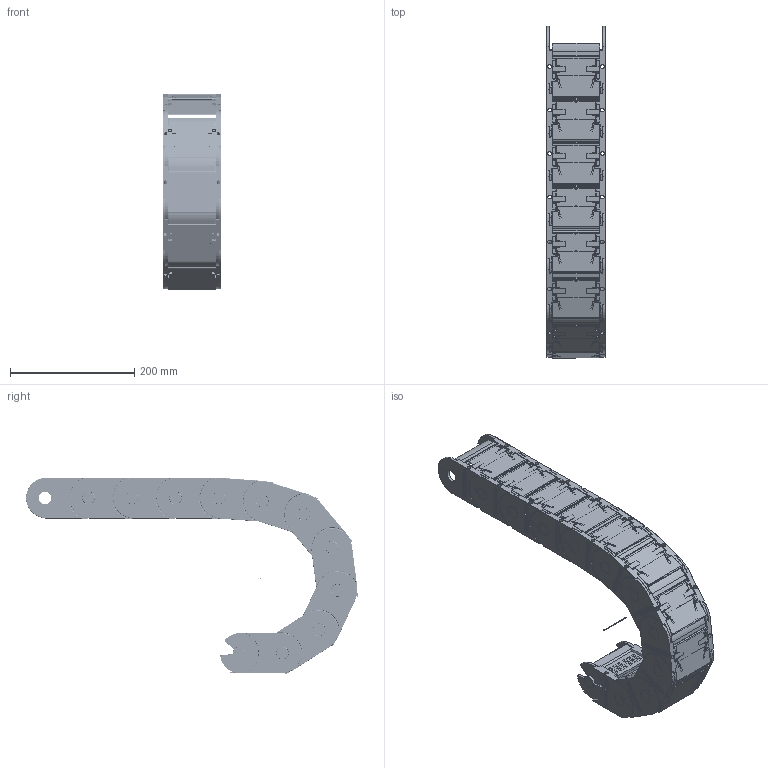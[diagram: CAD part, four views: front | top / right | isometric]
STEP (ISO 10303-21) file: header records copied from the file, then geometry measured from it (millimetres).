
FILE_DESCRIPTION((''),'2;1');
FILE_NAME('C:\Uebbing\PARAMETERKETTEN\KOLIBRI\Kol_65_095_5\Kol_65_095_5_R125.stp','2012-03-06T08:36:24',('Uebbing'),(''),'Autodesk Inventor 10','Autodesk Inventor 10','');
FILE_SCHEMA(('AUTOMOTIVE_DESIGN { 1 0 10303 214 1 1 1 1 }'));
Length unit declared in the file: millimetre
Products named in the file (5): KOLIBRI 65_095_5_PARAMETRISCH; Achse; Kol_65_095_5; Kol_65_095_5 Klappdeckel; Kol_65_095_5 Lasche
Assembly tree (14 placements, depth 3):
  KOLIBRI 65_095_5_PARAMETRISCH
    Achse
    Kol_65_095_5  x11
      Kol_65_095_5 Klappdeckel
      Kol_65_095_5 Lasche
Bounding box: 95 x 534.35 x 316.43 mm (x, y, z)
Volume: 1132556.5 mm3; surface area: 730580.5 mm2
Topology: 23 solids, 23 shells, 6449 faces, 17538 edges, 11212 vertices
Faces by surface type: plane 2598, bspline 2387, cylinder 1189, torus 209, cone 44, sphere 22
Full cylindrical faces by diameter (mm): 1 x1, 2.514 x11, 4 x33, 4.414 x11, 6 x22, 20 x22
Entity records: 19986 total; most frequent: CARTESIAN_POINT 5558, ORIENTED_EDGE 3122, DIRECTION 2713, EDGE_CURVE 1561, VECTOR 1115, LINE 1115, VERTEX_POINT 1010, AXIS2_PLACEMENT_3D 799
